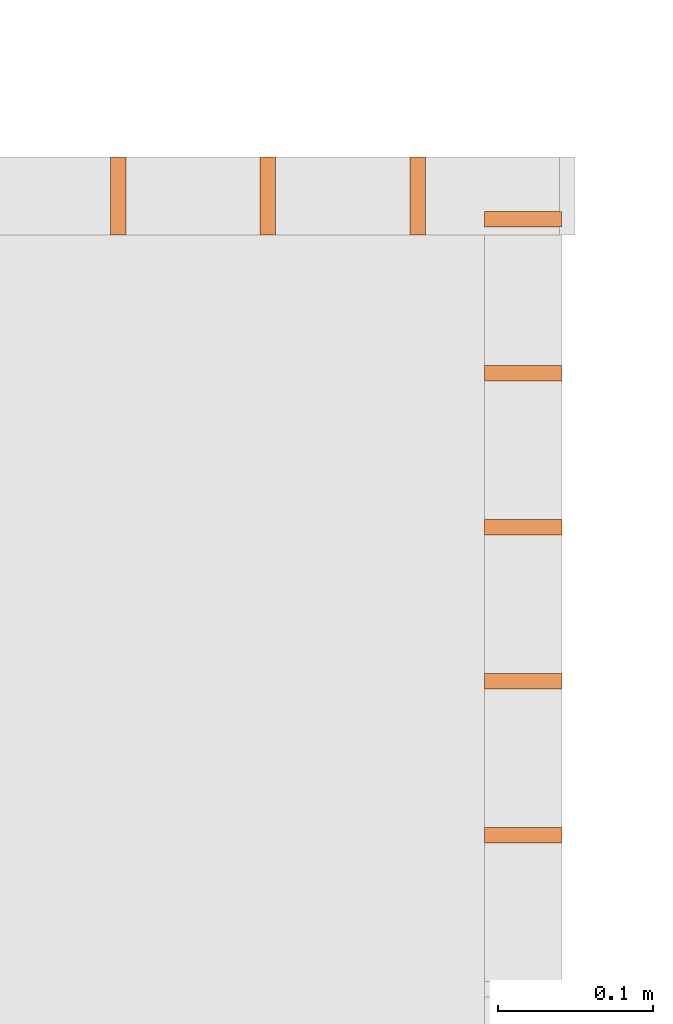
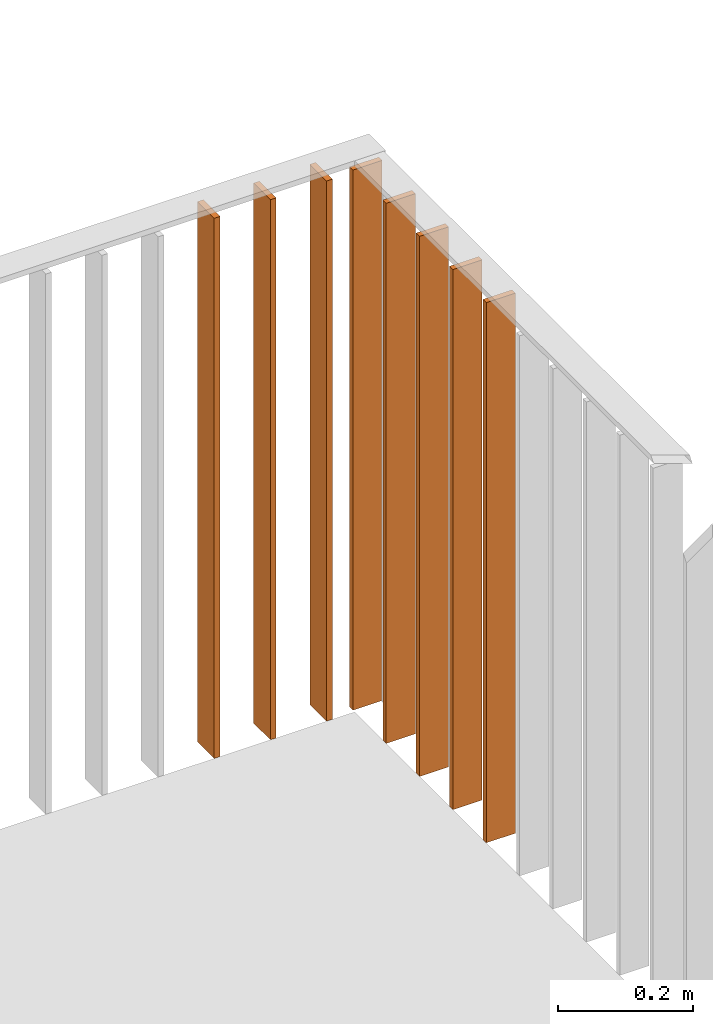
# One storey, part 80 of 100: 8 proxies, 2 elements without a shape of their own.
"""IFC2X3 building model written with IfcOpenShell, lengths in millimetres."""

import ifcopenshell
import ifcopenshell.guid

model = None  # the IFC model being written
_history = None  # IfcOwnerHistory: only IFC2X3 demands one
_inside = {}  # id of a spatial element -> (the spatial element, [elements in it])
_under = {}  # id of a project, library or spatial element -> (it, [spatial elements below it])
_declared = {}  # id of a project -> (the project, [libraries it declares])
_typed = {}  # id of a type object -> (the type object, [elements of that type])
_made_of = {}  # id of a material, layer set ... -> (it, [elements and type objects made of it])


def new_model(schema):
    """Start an empty IFC model of exactly this schema.

    Asked for "IFC4X3", IfcOpenShell would pick the latest addendum, in which some entities
    have other attributes; the version numbers below select the first issue.
    IFC2X3 requires an IfcOwnerHistory on every rooted entity: one is made here for all.
    """
    global model, _history
    if schema == "IFC4X3":
        model = ifcopenshell.file(schema_version=(4, 3, 0, 0))
    else:
        model = ifcopenshell.file(schema=schema)
    _inside.clear()
    _under.clear()
    _declared.clear()
    _typed.clear()
    _made_of.clear()
    _history = None
    if model.schema == "IFC2X3":
        org = make("IfcOrganization", Name="unknown")
        user = make(
            "IfcPersonAndOrganization",
            ThePerson=make("IfcPerson", FamilyName="unknown"),
            TheOrganization=org,
        )
        app = make(
            "IfcApplication",
            ApplicationDeveloper=org,
            Version="unknown",
            ApplicationFullName="unknown",
            ApplicationIdentifier="unknown",
        )
        _history = make(
            "IfcOwnerHistory",
            OwningUser=user,
            OwningApplication=app,
            ChangeAction="ADDED",
            CreationDate=0,
        )
    return model


def make(cls, **values):
    """One entity of the class cls with the attributes given. An attribute that is None is left unset."""
    return model.create_entity(
        cls, **{name: value for name, value in values.items() if value is not None}
    )


def entity(cls, *values):
    """Any entity or typed value of the class cls, its attributes in the order of the schema. None: left unset."""
    e = model.create_entity(cls)
    for i, value in enumerate(values):
        if value is not None:
            e[i] = value
    return e


def rooted(cls, **values):
    """An entity with a GlobalId (a new one), such as an element, a storey or a relation."""
    return make(cls, GlobalId=ifcopenshell.guid.new(), OwnerHistory=_history, **values)


def si_unit(unit_type, name, prefix=None):
    """IfcSIUnit, for example si_unit("LENGTHUNIT", "METRE", prefix="MILLI")."""
    return make("IfcSIUnit", UnitType=unit_type, Prefix=prefix, Name=name)


def converted_unit(unit_type, name, factor, base, dimensions=None, offset=None):
    """IfcConversionBasedUnit, such as the inch: factor (a typed value) times the base unit."""
    return make(
        "IfcConversionBasedUnit"
        if offset is None
        else "IfcConversionBasedUnitWithOffset",
        ConversionOffset=offset,
        Dimensions=None
        if dimensions is None
        else entity("IfcDimensionalExponents", *dimensions),
        UnitType=unit_type,
        Name=name,
        ConversionFactor=make(
            "IfcMeasureWithUnit", ValueComponent=factor, UnitComponent=base
        ),
    )


def derived_unit(unit_type, elements):
    """IfcDerivedUnit: a product of units, each with its exponent."""
    return make(
        "IfcDerivedUnit",
        Elements=[
            make("IfcDerivedUnitElement", Unit=unit, Exponent=power)
            for unit, power in elements
        ],
        UnitType=unit_type,
    )


def money_unit(currency):
    """IfcMonetaryUnit."""
    return make("IfcMonetaryUnit", Currency=currency)


def assignment(units):
    """IfcUnitAssignment: the units of a project."""
    return None if units is None else make("IfcUnitAssignment", Units=units)


def point(xyz):
    """IfcCartesianPoint."""
    return None if xyz is None else make("IfcCartesianPoint", Coordinates=xyz)


def direction(xyz):
    """IfcDirection."""
    return None if xyz is None else make("IfcDirection", DirectionRatios=xyz)


def frame(location, z_axis=None, x_axis=None):
    """IfcAxis2Placement3D, a coordinate frame: its origin and axes. An axis left out is left unset."""
    return make(
        "IfcAxis2Placement3D",
        Location=point(location),
        Axis=direction(z_axis),
        RefDirection=direction(x_axis),
    )


def origin_with_axes():
    """The frame at (0, 0, 0) with the z axis (0, 0, 1) and the x axis (1, 0, 0) written out."""
    return frame((0.0, 0.0, 0.0), z_axis=(0.0, 0.0, 1.0), x_axis=(1.0, 0.0, 0.0))


def place(relative_to, where):
    """IfcLocalPlacement: puts the frame where relative to a parent placement (None: the world)."""
    return make(
        "IfcLocalPlacement", PlacementRelTo=relative_to, RelativePlacement=where
    )


def context(
    kind, dimensions, precision=None, world=None, true_north=None, identifier=None
):
    """IfcGeometricRepresentationContext, for example the 3D "Model" context."""
    return make(
        "IfcGeometricRepresentationContext",
        ContextIdentifier=identifier,
        ContextType=kind,
        CoordinateSpaceDimension=dimensions,
        Precision=precision,
        WorldCoordinateSystem=world,
        TrueNorth=true_north,
    )


def subcontext(parent, identifier, kind, view, scale=None):
    """IfcGeometricRepresentationSubContext, for example "Body" below "Model"."""
    return make(
        "IfcGeometricRepresentationSubContext",
        ContextIdentifier=identifier,
        ContextType=kind,
        ParentContext=parent,
        TargetScale=scale,
        TargetView=view,
    )


def project(units=None, contexts=None):
    """IfcProject with its units and contexts."""
    return rooted(
        "IfcProject",
        Name="project",
        RepresentationContexts=contexts,
        UnitsInContext=assignment(units),
    )


def spatial(cls, under=None, at=None, **own):
    """A site, building, storey or space (cls), placed at a placement, below another one or the project."""
    s = rooted(cls, ObjectPlacement=at, **own)
    if under is not None:
        _under.setdefault(under.id(), (under, []))[1].append(s)
    return s


def faces_of(points, faces, orient=None, outer=None):
    """IfcFace entities. A face is a list of loops; a loop is a list of indices into points, from 0.

    orient and outer hold one flag for each loop. By default every Orientation is true, the
    first loop of a face is its IfcFaceOuterBound and the others are IfcFaceBound.
    """
    made = []
    for i, loops in enumerate(faces):
        bounds = []
        for j, loop in enumerate(loops):
            is_outer = j == 0 if outer is None else outer[i][j]
            bounds.append(
                make(
                    "IfcFaceOuterBound" if is_outer else "IfcFaceBound",
                    Bound=make("IfcPolyLoop", Polygon=[points[k] for k in loop]),
                    Orientation=True if orient is None else orient[i][j],
                )
            )
        made.append(make("IfcFace", Bounds=bounds))
    return made


def faceted_brep(points, faces, orient=None, outer=None, voids=None):
    """IfcFacetedBrep: a solid bounded by flat faces; with voids (closed shells), ...WithVoids."""
    shared = [point(p) for p in points]
    hull = make("IfcClosedShell", CfsFaces=faces_of(shared, faces, orient, outer))
    if voids is None:
        return make("IfcFacetedBrep", Outer=hull)
    return make(
        "IfcFacetedBrepWithVoids",
        Outer=hull,
        Voids=[
            make(cls, CfsFaces=faces_of(shared, fs, o, b)) for cls, fs, o, b in voids
        ],
    )


def shape(context_of_items, identifier, shape_type, items):
    """IfcShapeRepresentation: the items that make up one representation, for example the "Body"."""
    return make(
        "IfcShapeRepresentation",
        ContextOfItems=context_of_items,
        RepresentationIdentifier=identifier,
        RepresentationType=shape_type,
        Items=items,
    )


def source(mapping_origin, context_of_items, identifier, shape_type, items):
    """IfcRepresentationMap: a shape defined once, which mapped items show again and again."""
    return make(
        "IfcRepresentationMap",
        MappingOrigin=mapping_origin,
        MappedRepresentation=shape(context_of_items, identifier, shape_type, items),
    )


def transform(
    local_origin,
    x_axis=None,
    y_axis=None,
    z_axis=None,
    scale=None,
    scale2=None,
    scale3=None,
    uniform=True,
):
    """IfcCartesianTransformationOperator3D, or its non-uniform kind. x_axis, y_axis, z_axis: its Axis1, 2, 3."""
    if uniform:
        return make(
            "IfcCartesianTransformationOperator3D",
            Axis1=direction(x_axis),
            Axis2=direction(y_axis),
            LocalOrigin=point(local_origin),
            Scale=scale,
            Axis3=direction(z_axis),
        )
    return make(
        "IfcCartesianTransformationOperator3DnonUniform",
        Axis1=direction(x_axis),
        Axis2=direction(y_axis),
        LocalOrigin=point(local_origin),
        Scale=scale,
        Axis3=direction(z_axis),
        Scale2=scale2,
        Scale3=scale3,
    )


def mapped(mapping_source, mapping_target):
    """IfcMappedItem: shows the shape of a source again, moved by a transform."""
    return make(
        "IfcMappedItem", MappingSource=mapping_source, MappingTarget=mapping_target
    )


def material(Name=None, Category=None):
    """IfcMaterial."""
    return make("IfcMaterial", Name=Name, Category=Category)


def made_of(thing, what):
    """Note that an element or type object is made of a material, layer set ...; save() writes the relation."""
    if what is not None:
        _made_of.setdefault(what.id(), (what, []))[1].append(thing)
    return thing


def type_object(cls, material=None, **own):
    """A type object (cls), such as IfcWallType, which elements share."""
    return made_of(rooted(cls, **own), material)


def element(
    cls,
    number,
    at=None,
    inside=None,
    cuts=None,
    type_object=None,
    material=None,
    context=None,
    identifier="Body",
    shape_type=None,
    held_by="IfcProductDefinitionShape",
    body=None,
    shapes=None,
    **own,
):
    """One element of the class cls, such as IfcWall. Its Tag is "e" and its number.

    at: its placement. inside: the storey or other place that contains it. cuts: it is an
    opening in that element (IfcRelVoidsElement). A single representation is given by context,
    identifier, shape_type and body (its items); several are given by shapes. held_by: the class
    of the entity that holds the representations. save() writes the other relations.
    """
    e = rooted(cls, Tag="e%d" % number, ObjectPlacement=at, **own)
    if body is not None:
        shapes = [shape(context, identifier, shape_type, body)]
    if shapes is not None:
        e.Representation = make(held_by, Representations=shapes)
    if inside is not None:
        _inside.setdefault(inside.id(), (inside, []))[1].append(e)
    if cuts is not None:
        rooted(
            "IfcRelVoidsElement", RelatingBuildingElement=cuts, RelatedOpeningElement=e
        )
    if type_object is not None:
        _typed.setdefault(type_object.id(), (type_object, []))[1].append(e)
    return made_of(e, material)


def aggregate(whole, parts):
    """IfcRelAggregates: a whole, such as a stair, and the parts it consists of."""
    return rooted("IfcRelAggregates", RelatingObject=whole, RelatedObjects=parts)


def save(model, path):
    """Write the relations noted so far, then the file.

    IfcRelAggregates (storeys below a building ...), IfcRelContainedInSpatialStructure (elements
    in a storey), IfcRelDefinesByType, IfcRelAssociatesMaterial and IfcRelDeclares: one each for
    every whole, place, type object, material and project.
    """
    for whole, parts in _under.values():
        aggregate(whole, parts)
    for where, things in _inside.values():
        rooted(
            "IfcRelContainedInSpatialStructure",
            RelatedElements=things,
            RelatingStructure=where,
        )
    for kind, things in _typed.values():
        rooted("IfcRelDefinesByType", RelatedObjects=things, RelatingType=kind)
    for what, things in _made_of.values():
        rooted("IfcRelAssociatesMaterial", RelatedObjects=things, RelatingMaterial=what)
    for by, libraries in _declared.values():
        rooted("IfcRelDeclares", RelatingContext=by, RelatedDefinitions=libraries)
    model.write(path)


model = new_model("IFC2X3")

# Units and contexts
model_context = context("Model", 3, precision=0.01, world=origin_with_axes(), true_north=direction((0.0, 1.0)))
body_context = subcontext(model_context, "Body", "Model", "MODEL_VIEW")
ifc_project = project(units=[si_unit("LENGTHUNIT", "METRE", prefix="MILLI"), si_unit("AREAUNIT", "SQUARE_METRE"), si_unit("VOLUMEUNIT", "CUBIC_METRE"), converted_unit("PLANEANGLEUNIT", "DEGREE", entity("IfcPlaneAngleMeasure", 0.0174532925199), si_unit("PLANEANGLEUNIT", "RADIAN"), dimensions=[0, 0, 0, 0, 0, 0, 0]), si_unit("SOLIDANGLEUNIT", "STERADIAN"), money_unit("EUR"), converted_unit("TIMEUNIT", "Year", entity("IfcTimeMeasure", 31556926.0), si_unit("TIMEUNIT", "SECOND"), dimensions=[0, 0, 1, 0, 0, 0, 0]), si_unit("MASSUNIT", "GRAM", prefix="KILO"), si_unit("THERMODYNAMICTEMPERATUREUNIT", "DEGREE_CELSIUS"), si_unit("LUMINOUSINTENSITYUNIT", "LUMEN"), si_unit("ENERGYUNIT", "JOULE", prefix="MEGA"), derived_unit("THERMALCONDUCTANCEUNIT", [(si_unit("POWERUNIT", "WATT"), 1), (si_unit("LENGTHUNIT", "METRE"), -1), (si_unit("THERMODYNAMICTEMPERATUREUNIT", "KELVIN"), -1)]), derived_unit("SPECIFICHEATCAPACITYUNIT", [(si_unit("ENERGYUNIT", "JOULE"), 1), (si_unit("MASSUNIT", "GRAM", prefix="KILO"), -1), (si_unit("THERMODYNAMICTEMPERATUREUNIT", "KELVIN"), -1)]), derived_unit("MASSDENSITYUNIT", [(si_unit("MASSUNIT", "GRAM", prefix="KILO"), 1), (si_unit("VOLUMEUNIT", "CUBIC_METRE"), -1)])], contexts=[model_context])

# Site, building, storey
site_placement = place(None, origin_with_axes())
site = spatial("IfcSite", under=ifc_project, at=site_placement, Name="Politse- ja Piirivalveameti ning Päästeameti ühishoone", CompositionType="ELEMENT")
building_placement = place(site_placement, origin_with_axes())
building = spatial("IfcBuilding", under=site, at=building_placement, Name="Politse- ja Piirivalveameti ning Päästeameti ühishoone", CompositionType="ELEMENT")
storey_placement = place(building_placement, frame((0.0, 0.0, 3800.0), z_axis=(0.0, 0.0, 1.0), x_axis=(1.0, 0.0, 0.0)))
storey = spatial("IfcBuildingStorey", under=building, at=storey_placement, Name="Teine korrus", CompositionType="ELEMENT", Elevation=3800.0)

# Railing, proxy
railing_type = type_object("IfcRailingType", Name="Railing Type", PredefinedType="NOTDEFINED")
railing_1_placement = place(storey_placement, frame((-7106.69877185, 4799.53601155, -549.999987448), z_axis=(0.0, 0.0, 1.0), x_axis=(1.0, 0.0, 0.0)))
railing_1 = element("IfcRailing", 1, at=railing_1_placement, inside=storey, type_object=railing_type, Name="PIIRE 2", PredefinedType="NOTDEFINED")
ifc_material = material(Name="Teras - Konstruktsioon")
building_element_proxy_type = type_object("IfcBuildingElementProxyType", Name="IfcBuildingElementProxy", PredefinedType="NOTDEFINED")
shared_shape_1 = source(origin_with_axes(), body_context, "Body", "Brep", [
    faceted_brep([(25.0, 5.0, 0.0), (-25.0, 5.0, 0.0), (-25.0, 5.0, 980.0), (25.0, 5.0, 980.0), (25.0, -5.0, 0.0), (-25.0, -5.0, 0.0), (-25.0, -5.0, 980.0), (25.0, -5.0, 980.0)], [[[0, 1, 2, 3]], [[0, 4, 5, 1]], [[1, 5, 6, 2]], [[3, 2, 6, 7]], [[4, 0, 3, 7]], [[5, 4, 7, 6]]]),
])
proxy_1_placement = place(railing_1_placement, frame((25.0, -213.998734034, 0.0), z_axis=(0.0, 0.0, 1.0), x_axis=(1.0, 0.0, 0.0)))
proxy_1 = element("IfcBuildingElementProxy", 2, at=proxy_1_placement, type_object=building_element_proxy_type, material=ifc_material, Name="PIIRDE POST - 001", context=body_context, shape_type="MappedRepresentation", body=[
    mapped(shared_shape_1, transform((0.0, 0.0, 0.0))),
])

# Railing, proxies
railing_2_placement = place(storey_placement, frame((-7483.77309461, 4575.4616888, -549.999987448), z_axis=(0.0, 0.0, 1.0), x_axis=(0.0, 1.0, 0.0)))
railing_2 = element("IfcRailing", 3, at=railing_2_placement, inside=storey, type_object=railing_type, Name="PIIRE 2", PredefinedType="NOTDEFINED")
shared_shape_2 = source(origin_with_axes(), body_context, "Body", "Brep", [
    faceted_brep([(25.0, 5.0, 0.0), (-25.0, 5.0, 0.0), (-25.0, 5.0, 980.000012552), (25.0, 5.0, 980.000012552), (25.0, -5.0, 0.0), (-25.0, -5.0, 0.0), (-25.0, -5.0, 980.000012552), (25.0, -5.0, 980.000012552)], [[[0, 1, 2, 3]], [[0, 4, 5, 1]], [[1, 5, 6, 2]], [[3, 2, 6, 7]], [[4, 0, 3, 7]], [[5, 4, 7, 6]]]),
])
proxy_2_placement = place(railing_2_placement, frame((25.0, -334.040178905, -1.25517001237e-05), z_axis=(0.0, 0.0, 1.0), x_axis=(0.0, -1.0, 0.0)))
proxy_2 = element("IfcBuildingElementProxy", 4, at=proxy_2_placement, type_object=building_element_proxy_type, material=ifc_material, Name="BALUSTER - 001", context=body_context, shape_type="MappedRepresentation", body=[
    mapped(shared_shape_2, transform((0.0, 0.0, 0.0), x_axis=(0.0, 1.0, 0.0), y_axis=(-1.0, 0.0, 0.0), z_axis=(0.0, 0.0, 1.0))),
])
proxy_3_placement = place(railing_2_placement, frame((25.0, -237.626357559, -1.25517001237e-05), z_axis=(0.0, 0.0, 1.0), x_axis=(0.0, -1.0, 0.0)))
proxy_3 = element("IfcBuildingElementProxy", 5, at=proxy_3_placement, type_object=building_element_proxy_type, material=ifc_material, Name="BALUSTER - 001", context=body_context, shape_type="MappedRepresentation", body=[
    mapped(shared_shape_2, transform((0.0, 0.0, 0.0), x_axis=(0.0, 1.0, 0.0), y_axis=(-1.0, 0.0, 0.0), z_axis=(0.0, 0.0, 1.0))),
])
proxy_4_placement = place(railing_2_placement, frame((25.0, -141.212536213, -1.25517001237e-05), z_axis=(0.0, 0.0, 1.0), x_axis=(0.0, -1.0, 0.0)))
proxy_4 = element("IfcBuildingElementProxy", 6, at=proxy_4_placement, type_object=building_element_proxy_type, material=ifc_material, Name="BALUSTER - 001", context=body_context, shape_type="MappedRepresentation", body=[
    mapped(shared_shape_2, transform((0.0, 0.0, 0.0), x_axis=(0.0, 1.0, 0.0), y_axis=(-1.0, 0.0, 0.0), z_axis=(0.0, 0.0, 1.0))),
])
aggregate(railing_2, [proxy_2, proxy_3, proxy_4])

# Proxy
proxy_5_placement = place(railing_1_placement, frame((25.0, -610.640204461, -1.25517001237e-05), z_axis=(0.0, 0.0, 1.0), x_axis=(1.0, 0.0, 0.0)))
proxy_5 = element("IfcBuildingElementProxy", 7, at=proxy_5_placement, type_object=building_element_proxy_type, material=ifc_material, Name="BALUSTER - 001", context=body_context, shape_type="MappedRepresentation", body=[
    mapped(shared_shape_2, transform((0.0, 0.0, 0.0))),
])

proxy_6_placement = place(railing_1_placement, frame((25.0, -511.479836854, -1.25517001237e-05), z_axis=(0.0, 0.0, 1.0), x_axis=(1.0, 0.0, 0.0)))
proxy_6 = element("IfcBuildingElementProxy", 8, at=proxy_6_placement, type_object=building_element_proxy_type, material=ifc_material, Name="BALUSTER - 001", context=body_context, shape_type="MappedRepresentation", body=[
    mapped(shared_shape_2, transform((0.0, 0.0, 0.0))),
])

proxy_7_placement = place(railing_1_placement, frame((25.0, -412.319469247, -1.25517001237e-05), z_axis=(0.0, 0.0, 1.0), x_axis=(1.0, 0.0, 0.0)))
proxy_7 = element("IfcBuildingElementProxy", 9, at=proxy_7_placement, type_object=building_element_proxy_type, material=ifc_material, Name="BALUSTER - 001", context=body_context, shape_type="MappedRepresentation", body=[
    mapped(shared_shape_2, transform((0.0, 0.0, 0.0))),
])

proxy_8_placement = place(railing_1_placement, frame((25.0, -313.15910164, -1.25517001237e-05), z_axis=(0.0, 0.0, 1.0), x_axis=(1.0, 0.0, 0.0)))
proxy_8 = element("IfcBuildingElementProxy", 10, at=proxy_8_placement, type_object=building_element_proxy_type, material=ifc_material, Name="BALUSTER - 001", context=body_context, shape_type="MappedRepresentation", body=[
    mapped(shared_shape_2, transform((0.0, 0.0, 0.0))),
])

aggregate(railing_1, [proxy_1, proxy_5, proxy_6, proxy_7, proxy_8])

save(model, "model.ifc")
